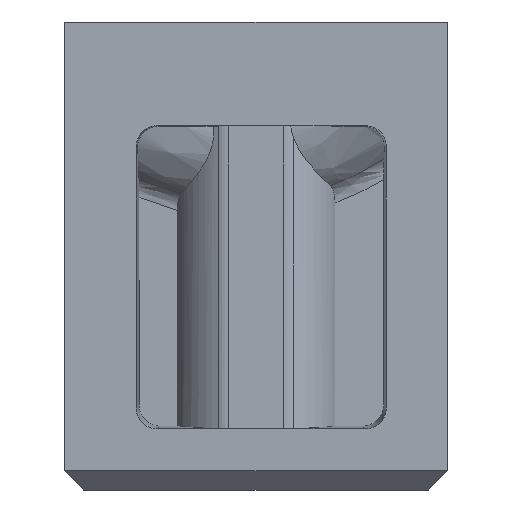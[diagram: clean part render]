
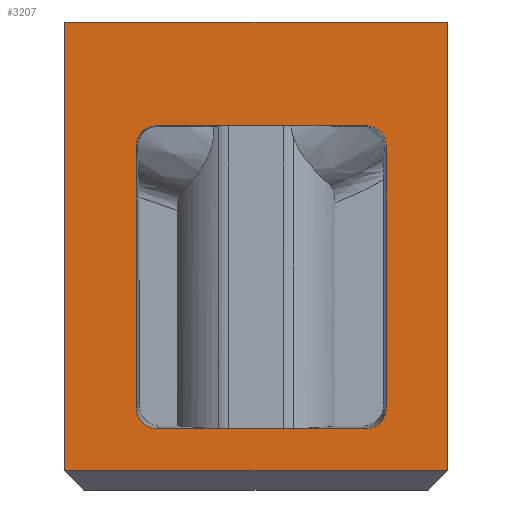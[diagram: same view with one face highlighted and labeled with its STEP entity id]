
A CAD part, left-side view. The second image highlights one B-rep face of the part: STEP entity #3207.
In plain terms, the highlighted planar face has unit normal (-1, 0, 0).
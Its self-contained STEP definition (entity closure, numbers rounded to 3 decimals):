
#167=DIRECTION('',(0.,1.,0.));
#168=VECTOR('',#167,18.);
#169=CARTESIAN_POINT('',(-4.,-16.,2.));
#170=LINE('',#169,#168);
#668=DIRECTION('',(0.,1.,0.));
#669=VECTOR('',#668,18.);
#670=CARTESIAN_POINT('',(-4.,-16.,-19.1));
#671=LINE('',#670,#669);
#672=DIRECTION('',(0.,0.,-1.));
#673=VECTOR('',#672,21.1);
#674=CARTESIAN_POINT('',(-4.,-16.,2.));
#675=LINE('',#674,#673);
#676=DIRECTION('',(0.,1.,0.));
#677=VECTOR('',#676,9.765);
#678=CARTESIAN_POINT('',(-4.,-12.132,
-2.869));
#679=LINE('',#678,#677);
#680=DIRECTION('',(0.,0.,-1.));
#681=VECTOR('',#680,12.265);
#682=CARTESIAN_POINT('',(-4.,-1.369,
-3.868));
#683=LINE('',#682,#681);
#684=DIRECTION('',(0.,-1.,0.));
#685=VECTOR('',#684,9.765);
#686=CARTESIAN_POINT('',(-4.,-2.368,
-17.131));
#687=LINE('',#686,#685);
#688=DIRECTION('',(0.,0.,1.));
#689=VECTOR('',#688,12.265);
#690=CARTESIAN_POINT('',(-4.,-13.131,
-16.132));
#691=LINE('',#690,#689);
#696=DIRECTION('',(0.,0.,-1.));
#697=VECTOR('',#696,21.1);
#698=CARTESIAN_POINT('',(-4.,2.,2.));
#699=LINE('',#698,#697);
#722=CARTESIAN_POINT('',(-4.,-12.132,
-2.869));
#723=CARTESIAN_POINT('',(-4.,-12.208,
-2.869));
#724=CARTESIAN_POINT('',(-4.,-12.356,
-2.886));
#725=CARTESIAN_POINT('',(-4.,-12.57,
-2.96));
#726=CARTESIAN_POINT('',(-4.,-12.76,
-3.08));
#727=CARTESIAN_POINT('',(-4.,-12.92,
-3.24));
#728=CARTESIAN_POINT('',(-4.,-13.04,
-3.43));
#729=CARTESIAN_POINT('',(-4.,-13.114,
-3.644));
#730=CARTESIAN_POINT('',(-4.,-13.131,
-3.792));
#731=CARTESIAN_POINT('',(-4.,-13.131,
-3.868));
#745=CARTESIAN_POINT('',(-4.,-13.131,
-16.132));
#746=CARTESIAN_POINT('',(-4.,-13.131,
-16.208));
#747=CARTESIAN_POINT('',(-4.,-13.114,
-16.356));
#748=CARTESIAN_POINT('',(-4.,-13.04,
-16.57));
#749=CARTESIAN_POINT('',(-4.,-12.92,
-16.76));
#750=CARTESIAN_POINT('',(-4.,-12.76,
-16.92));
#751=CARTESIAN_POINT('',(-4.,-12.57,
-17.04));
#752=CARTESIAN_POINT('',(-4.,-12.356,
-17.114));
#753=CARTESIAN_POINT('',(-4.,-12.208,
-17.131));
#754=CARTESIAN_POINT('',(-4.,-12.132,
-17.131));
#795=CARTESIAN_POINT('',(-4.,-2.368,
-17.131));
#796=CARTESIAN_POINT('',(-4.,-2.292,
-17.131));
#797=CARTESIAN_POINT('',(-4.,-2.144,
-17.114));
#798=CARTESIAN_POINT('',(-4.,-1.93,
-17.04));
#799=CARTESIAN_POINT('',(-4.,-1.74,
-16.92));
#800=CARTESIAN_POINT('',(-4.,-1.58,
-16.76));
#801=CARTESIAN_POINT('',(-4.,-1.46,
-16.57));
#802=CARTESIAN_POINT('',(-4.,-1.386,
-16.356));
#803=CARTESIAN_POINT('',(-4.,-1.369,
-16.208));
#804=CARTESIAN_POINT('',(-4.,-1.369,
-16.132));
#829=CARTESIAN_POINT('',(-4.,-1.369,
-3.868));
#830=CARTESIAN_POINT('',(-4.,-1.369,
-3.792));
#831=CARTESIAN_POINT('',(-4.,-1.386,
-3.644));
#832=CARTESIAN_POINT('',(-4.,-1.46,
-3.43));
#833=CARTESIAN_POINT('',(-4.,-1.58,
-3.24));
#834=CARTESIAN_POINT('',(-4.,-1.74,-3.08));
#835=CARTESIAN_POINT('',(-4.,-1.93,
-2.96));
#836=CARTESIAN_POINT('',(-4.,-2.144,
-2.886));
#837=CARTESIAN_POINT('',(-4.,-2.292,
-2.869));
#838=CARTESIAN_POINT('',(-4.,-2.368,
-2.869));
#1445=CARTESIAN_POINT('',(-4.,-16.,-19.1));
#1446=VERTEX_POINT('',#1445);
#1449=CARTESIAN_POINT('',(-4.,2.,-19.1));
#1450=VERTEX_POINT('',#1449);
#1474=CARTESIAN_POINT('',(-4.,-16.,2.));
#1475=VERTEX_POINT('',#1474);
#1483=CARTESIAN_POINT('',(-4.,2.,2.));
#1484=VERTEX_POINT('',#1483);
#1490=CARTESIAN_POINT('',(-4.,-12.132,
-2.869));
#1491=CARTESIAN_POINT('',(-4.,-2.368,
-2.869));
#1492=VERTEX_POINT('',#1490);
#1493=VERTEX_POINT('',#1491);
#1494=VERTEX_POINT('',#829);
#1495=CARTESIAN_POINT('',(-4.,-1.369,
-16.132));
#1496=VERTEX_POINT('',#1495);
#1497=VERTEX_POINT('',#795);
#1498=CARTESIAN_POINT('',(-4.,-12.132,
-17.131));
#1499=VERTEX_POINT('',#1498);
#1500=VERTEX_POINT('',#745);
#1501=CARTESIAN_POINT('',(-4.,-13.131,
-3.868));
#1502=VERTEX_POINT('',#1501);
#3177=CARTESIAN_POINT('',(-4.,2.,-20.));
#3178=DIRECTION('',(-1.,0.,0.));
#3179=DIRECTION('',(0.,-1.,0.));
#3180=AXIS2_PLACEMENT_3D('',#3177,#3178,#3179);
#3181=PLANE('',#3180);
#3182=ORIENTED_EDGE('',*,*,#1724,.T.);
#3184=ORIENTED_EDGE('',*,*,#3183,.F.);
#3185=ORIENTED_EDGE('',*,*,#1838,.F.);
#3186=ORIENTED_EDGE('',*,*,#1801,.T.);
#3187=EDGE_LOOP('',(#3182,#3184,#3185,#3186));
#3188=FACE_OUTER_BOUND('',#3187,.F.);
#3190=ORIENTED_EDGE('',*,*,#3189,.T.);
#3192=ORIENTED_EDGE('',*,*,#3191,.F.);
#3194=ORIENTED_EDGE('',*,*,#3193,.T.);
#3196=ORIENTED_EDGE('',*,*,#3195,.F.);
#3198=ORIENTED_EDGE('',*,*,#3197,.T.);
#3200=ORIENTED_EDGE('',*,*,#3199,.F.);
#3202=ORIENTED_EDGE('',*,*,#3201,.T.);
#3204=ORIENTED_EDGE('',*,*,#3203,.F.);
#3205=EDGE_LOOP('',(#3190,#3192,#3194,#3196,#3198,#3200,#3202,#3204));
#3206=FACE_BOUND('',#3205,.F.);
#3207=ADVANCED_FACE('',(#3188,#3206),#3181,.T.);
#732=B_SPLINE_CURVE_WITH_KNOTS('',3,(#722,#723,#724,#725,#726,#727,#728,#729,
#730,#731),.UNSPECIFIED.,.F.,.F.,(4,1,1,1,1,1,1,4),(0.,0.143,
0.286,0.429,0.571,0.714,
0.857,1.),.UNSPECIFIED.);
#755=B_SPLINE_CURVE_WITH_KNOTS('',3,(#745,#746,#747,#748,#749,#750,#751,#752,
#753,#754),.UNSPECIFIED.,.F.,.F.,(4,1,1,1,1,1,1,4),(0.,0.143,
0.286,0.429,0.571,0.714,
0.857,1.),.UNSPECIFIED.);
#805=B_SPLINE_CURVE_WITH_KNOTS('',3,(#795,#796,#797,#798,#799,#800,#801,#802,
#803,#804),.UNSPECIFIED.,.F.,.F.,(4,1,1,1,1,1,1,4),(0.,0.143,
0.286,0.429,0.571,0.714,
0.857,1.),.UNSPECIFIED.);
#839=B_SPLINE_CURVE_WITH_KNOTS('',3,(#829,#830,#831,#832,#833,#834,#835,#836,
#837,#838),.UNSPECIFIED.,.F.,.F.,(4,1,1,1,1,1,1,4),(0.,0.143,
0.286,0.429,0.571,0.714,
0.857,1.),.UNSPECIFIED.);
#1724=EDGE_CURVE('',#1446,#1450,#671,.T.);
#1801=EDGE_CURVE('',#1475,#1446,#675,.T.);
#1838=EDGE_CURVE('',#1475,#1484,#170,.T.);
#3183=EDGE_CURVE('',#1484,#1450,#699,.T.);
#3189=EDGE_CURVE('',#1492,#1493,#679,.T.);
#3191=EDGE_CURVE('',#1494,#1493,#839,.T.);
#3193=EDGE_CURVE('',#1494,#1496,#683,.T.);
#3195=EDGE_CURVE('',#1497,#1496,#805,.T.);
#3197=EDGE_CURVE('',#1497,#1499,#687,.T.);
#3199=EDGE_CURVE('',#1500,#1499,#755,.T.);
#3201=EDGE_CURVE('',#1500,#1502,#691,.T.);
#3203=EDGE_CURVE('',#1492,#1502,#732,.T.);
